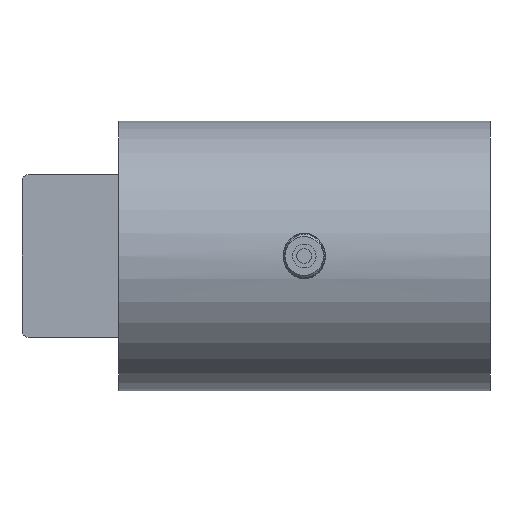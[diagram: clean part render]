
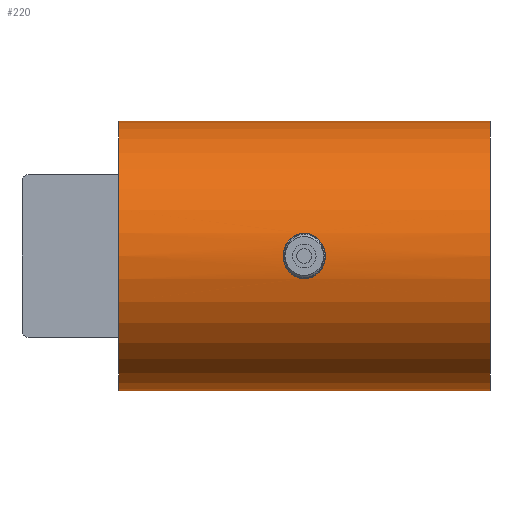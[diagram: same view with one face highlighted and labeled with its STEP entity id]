
A CAD part, front view. The second image highlights one B-rep face of the part: STEP entity #220.
In plain terms, the highlighted cylindrical face has radius 90.8 mm (diameter 181.6 mm), a full revolution.
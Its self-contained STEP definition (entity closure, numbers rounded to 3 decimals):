
#107=B_SPLINE_CURVE_WITH_KNOTS('',3,(#1822,#1823,#1824,#1825,#1826,#1827,
#1828,#1829,#1830,#1831,#1832,#1833,#1834,#1835,#1836,#1837,#1838,#1839,
#1840,#1841,#1842,#1843),.UNSPECIFIED.,.T.,.F.,(2,2,2,2,2,2,2,2,2,2,2,2,
2),(-0.063,0.,0.125,0.25,0.375,0.437,
0.5,0.625,0.75,0.875,
0.938,1.,1.125),.UNSPECIFIED.);
#108=B_SPLINE_CURVE_WITH_KNOTS('',3,(#1845,#1846,#1847,#1848,#1849,#1850,
#1851,#1852,#1853,#1854,#1855,#1856,#1857,#1858,#1859,#1860,#1861,#1862,
#1863,#1864,#1865,#1866),.UNSPECIFIED.,.T.,.F.,(2,2,2,2,2,2,2,2,2,2,2,2,
2),(-0.125,0.,0.062,0.125,0.25,0.375,
0.5,0.562,0.625,0.75,
0.875,1.,1.063),.UNSPECIFIED.);
#140=CYLINDRICAL_SURFACE('',#1255,90.8);
#220=ADVANCED_FACE('',(#419,#420,#421,#422),#140,.T.);
#419=FACE_BOUND('',#557,.T.);
#420=FACE_BOUND('',#558,.T.);
#421=FACE_BOUND('',#559,.T.);
#422=FACE_BOUND('',#560,.T.);
#557=EDGE_LOOP('',(#787));
#558=EDGE_LOOP('',(#788));
#559=EDGE_LOOP('',(#789));
#560=EDGE_LOOP('',(#790));
#787=ORIENTED_EDGE('',*,*,#1073,.T.);
#788=ORIENTED_EDGE('',*,*,#1074,.T.);
#789=ORIENTED_EDGE('',*,*,#1069,.T.);
#790=ORIENTED_EDGE('',*,*,#1071,.T.);
#949=VERTEX_POINT('',#1813);
#951=VERTEX_POINT('',#1818);
#953=VERTEX_POINT('',#1844);
#954=VERTEX_POINT('',#1867);
#1069=EDGE_CURVE('',#949,#949,#1153,.T.);
#1071=EDGE_CURVE('',#951,#951,#1155,.T.);
#1073=EDGE_CURVE('',#953,#953,#107,.T.);
#1074=EDGE_CURVE('',#954,#954,#108,.T.);
#1153=CIRCLE('',#1249,90.8);
#1155=CIRCLE('',#1252,90.8);
#1249=AXIS2_PLACEMENT_3D('',#1812,#1482,#1483);
#1252=AXIS2_PLACEMENT_3D('',#1817,#1488,#1489);
#1255=AXIS2_PLACEMENT_3D('',#1868,#1494,#1495);
#1482=DIRECTION('',(-1.,0.,0.));
#1483=DIRECTION('',(0.,0.,1.));
#1488=DIRECTION('',(1.,0.,0.));
#1489=DIRECTION('',(0.,0.,-1.));
#1494=DIRECTION('',(1.,0.,0.));
#1495=DIRECTION('',(0.,0.,-1.));
#1812=CARTESIAN_POINT('',(125.,-48.3,125.));
#1813=CARTESIAN_POINT('',(125.,-48.3,215.8));
#1817=CARTESIAN_POINT('',(-125.,-48.3,125.));
#1818=CARTESIAN_POINT('',(-125.,-48.3,34.2));
#1822=CARTESIAN_POINT('',(-2.298,-137.806,109.715));
#1823=CARTESIAN_POINT('',(-7.848,-138.111,111.573));
#1824=CARTESIAN_POINT('',(-10.853,-138.549,114.427));
#1825=CARTESIAN_POINT('',(-14.215,-139.092,121.339));
#1826=CARTESIAN_POINT('',(-14.602,-139.175,125.457));
#1827=CARTESIAN_POINT('',(-12.646,-138.833,132.889));
#1828=CARTESIAN_POINT('',(-10.282,-138.42,136.281));
#1829=CARTESIAN_POINT('',(-5.389,-137.969,139.326));
#1830=CARTESIAN_POINT('',(-3.54,-137.852,140.003));
#1831=CARTESIAN_POINT('',(0.316,-137.77,140.486));
#1832=CARTESIAN_POINT('',(2.284,-137.806,140.286));
#1833=CARTESIAN_POINT('',(7.813,-138.108,138.445));
#1834=CARTESIAN_POINT('',(10.832,-138.546,135.61));
#1835=CARTESIAN_POINT('',(14.228,-139.094,128.638));
#1836=CARTESIAN_POINT('',(14.605,-139.176,124.548));
#1837=CARTESIAN_POINT('',(12.639,-138.832,117.092));
#1838=CARTESIAN_POINT('',(10.262,-138.417,113.7));
#1839=CARTESIAN_POINT('',(5.375,-137.968,110.669));
#1840=CARTESIAN_POINT('',(3.504,-137.851,109.99));
#1841=CARTESIAN_POINT('',(-0.316,-137.77,109.517));
#1842=CARTESIAN_POINT('',(-2.298,-137.806,109.715));
#1843=CARTESIAN_POINT('',(-7.848,-138.111,111.573));
#1844=CARTESIAN_POINT('',(-4.148,-137.908,110.334));
#1845=CARTESIAN_POINT('',(-7.848,41.511,111.573));
#1846=CARTESIAN_POINT('',(-2.298,41.206,109.715));
#1847=CARTESIAN_POINT('',(-0.332,41.17,109.516));
#1848=CARTESIAN_POINT('',(3.497,41.251,109.988));
#1849=CARTESIAN_POINT('',(5.363,41.367,110.662));
#1850=CARTESIAN_POINT('',(10.275,41.818,113.707));
#1851=CARTESIAN_POINT('',(12.645,42.233,117.093));
#1852=CARTESIAN_POINT('',(14.61,42.577,124.589));
#1853=CARTESIAN_POINT('',(14.213,42.492,128.674));
#1854=CARTESIAN_POINT('',(10.84,41.947,135.59));
#1855=CARTESIAN_POINT('',(7.832,41.51,138.429));
#1856=CARTESIAN_POINT('',(2.322,41.207,140.279));
#1857=CARTESIAN_POINT('',(0.37,41.17,140.486));
#1858=CARTESIAN_POINT('',(-3.508,41.251,140.013));
#1859=CARTESIAN_POINT('',(-5.361,41.367,139.339));
#1860=CARTESIAN_POINT('',(-10.273,41.818,136.295));
#1861=CARTESIAN_POINT('',(-12.642,42.232,132.907));
#1862=CARTESIAN_POINT('',(-14.607,42.576,125.435));
#1863=CARTESIAN_POINT('',(-14.226,42.494,121.358));
#1864=CARTESIAN_POINT('',(-10.835,41.946,114.395));
#1865=CARTESIAN_POINT('',(-7.848,41.511,111.573));
#1866=CARTESIAN_POINT('',(-2.298,41.206,109.715));
#1867=CARTESIAN_POINT('',(-4.148,41.308,110.334));
#1868=CARTESIAN_POINT('',(-125.,-48.3,125.));
